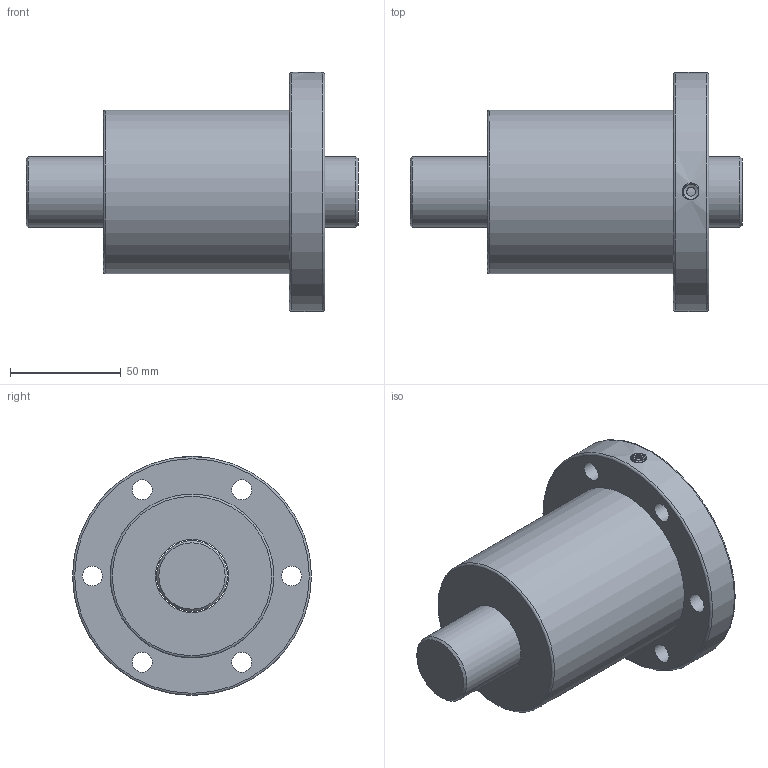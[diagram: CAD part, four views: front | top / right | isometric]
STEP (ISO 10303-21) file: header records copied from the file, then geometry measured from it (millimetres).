
FILE_DESCRIPTION(/* description */ ('Unknown','CAx-IF Rec.Pracs.---Representation and Presentation of Product Manufacturing Information (PMI)---4.0---2014-10-13','CAx-IF Rec.Pracs.---3D Tessellated Geometry---0.4---2014-09-14','2;1'),/* implementation_level */ '2;1');
FILE_NAME(/* name */ 'SFV03220-2.7',/* time_stamp */ '2020-12-08T10:56:06+08:00',/* author */ ('Unknown'),/* organization */ ('Unknown'),/* preprocessor_version */ 'ST-DEVELOPER v16.7',/* originating_system */ 'Solid Edge',/* authorisation */ 'Unknown');
FILE_SCHEMA (('AP242_MANAGED_MODEL_BASED_3D_ENGINEERING_MIM_LF { 1 0 10303 442 1 1 4 }'));
Length unit declared in the file: millimetre
Products named in the file (1): SFV03220-2.7
Bounding box: 150 x 108 x 108 mm (x, y, z)
Volume: 531223.9 mm3; surface area: 71493.6 mm2
Topology: 2 solids, 2 shells, 40 faces, 80 edges, 51 vertices
Faces by surface type: cylinder 20, plane 12, torus 3, cone 3, bspline 2
Full cylindrical faces by diameter (mm): 4 x1, 6.917 x1, 9 x6, 14 x6, 32 x1, 33 x1, 74 x1, 108 x1
Entity records: 3221 total; most frequent: CARTESIAN_POINT 2385, DIRECTION 168, ORIENTED_EDGE 106, EDGE_LOOP 87, FACE_BOUND 87, AXIS2_PLACEMENT_3D 85, EDGE_CURVE 53, VERTEX_POINT 48
